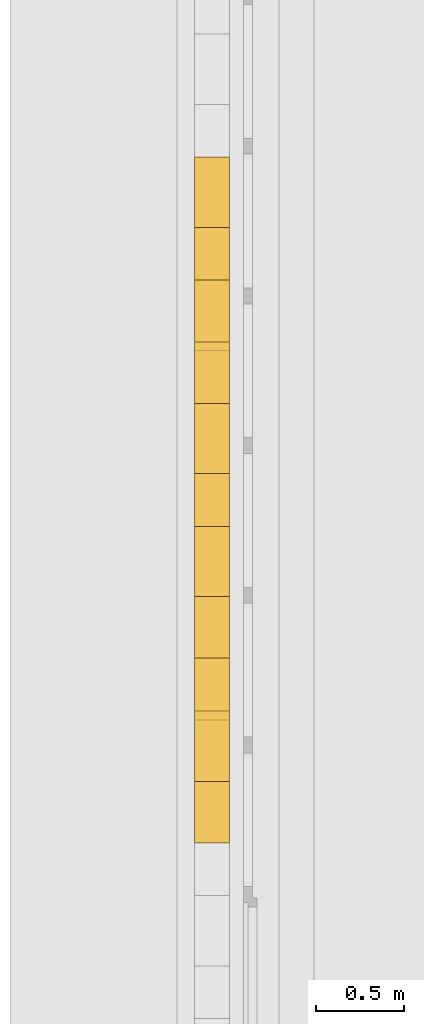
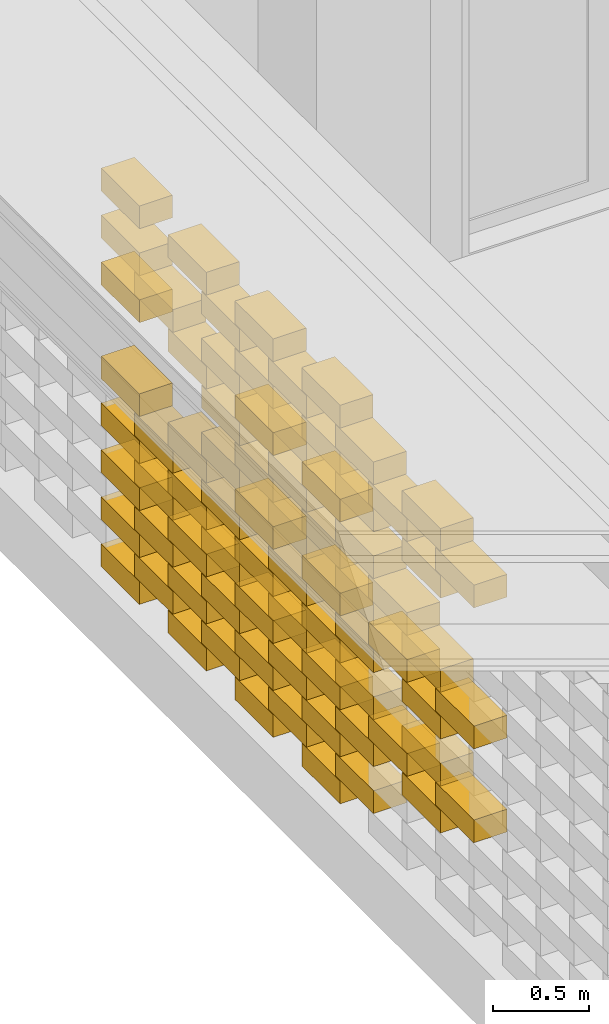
# One storey, part 48 of 62: 89 railings.
"""IFC2X3 building model written with IfcOpenShell, lengths in millimetres."""

from ifc_helpers import new_model, entity, si_unit, converted_unit, derived_unit, money_unit, direction, frame, origin_with_axes, place, context, subcontext, project, spatial, polyline, outline, extrude, material, type_object, element, save


model = new_model("IFC2X3")

# Units and contexts
model_context = context("Model", 3, precision=0.01, world=origin_with_axes(), true_north=direction((0.0, 1.0)))
body_context = subcontext(model_context, "Body", "Model", "MODEL_VIEW")
ifc_project = project(units=[si_unit("LENGTHUNIT", "METRE", prefix="MILLI"), si_unit("AREAUNIT", "SQUARE_METRE"), si_unit("VOLUMEUNIT", "CUBIC_METRE"), converted_unit("PLANEANGLEUNIT", "DEGREE", entity("IfcPlaneAngleMeasure", 0.0174532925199), si_unit("PLANEANGLEUNIT", "RADIAN"), dimensions=[0, 0, 0, 0, 0, 0, 0]), si_unit("SOLIDANGLEUNIT", "STERADIAN"), money_unit("EUR"), converted_unit("TIMEUNIT", "Year", entity("IfcTimeMeasure", 31556926.0), si_unit("TIMEUNIT", "SECOND"), dimensions=[0, 0, 1, 0, 0, 0, 0]), si_unit("MASSUNIT", "GRAM", prefix="KILO"), si_unit("THERMODYNAMICTEMPERATUREUNIT", "DEGREE_CELSIUS"), si_unit("LUMINOUSINTENSITYUNIT", "LUMEN"), si_unit("ENERGYUNIT", "JOULE", prefix="MEGA"), derived_unit("THERMALCONDUCTANCEUNIT", [(si_unit("POWERUNIT", "WATT"), 1), (si_unit("LENGTHUNIT", "METRE"), -1), (si_unit("THERMODYNAMICTEMPERATUREUNIT", "KELVIN"), -1)]), derived_unit("SPECIFICHEATCAPACITYUNIT", [(si_unit("ENERGYUNIT", "JOULE"), 1), (si_unit("MASSUNIT", "GRAM", prefix="KILO"), -1), (si_unit("THERMODYNAMICTEMPERATUREUNIT", "KELVIN"), -1)]), derived_unit("MASSDENSITYUNIT", [(si_unit("MASSUNIT", "GRAM", prefix="KILO"), 1), (si_unit("VOLUMEUNIT", "CUBIC_METRE"), -1)])], contexts=[model_context])

# Site, building, storey
site_placement = place(None, origin_with_axes())
site = spatial("IfcSite", under=ifc_project, at=site_placement, Name="KIRDE 14, ELVA", CompositionType="ELEMENT")
building_placement = place(site_placement, origin_with_axes())
building = spatial("IfcBuilding", under=site, at=building_placement, Name="PPA ja Päästeameti ühishoone", CompositionType="ELEMENT")
storey_placement = place(building_placement, origin_with_axes())
storey = spatial("IfcBuildingStorey", under=building, at=storey_placement, Name="Esimene korrus", CompositionType="ELEMENT", Elevation=0.0)

# Railings
ifc_material = material(Name="Air Space")
railing_type = type_object("IfcRailingType", Name="Air Space 200", PredefinedType="NOTDEFINED")
railing_1_placement = place(storey_placement, frame((620.000148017, 6376.16015987, 2800.0), z_axis=(0.0, 0.0, 1.0), x_axis=(1.30967237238e-09, -1.0, 0.0)))
element("IfcRailing", 1, at=railing_1_placement, inside=storey, type_object=railing_type, material=ifc_material, Name="plokk", PredefinedType="NOTDEFINED", context=body_context, shape_type="SweptSolid", body=[
    extrude(outline(polyline([(0.0, 0.0), (399.999999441, 0.0), (399.999999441, 200.0), (0.0, 200.0), (0.0, 0.0)])), origin_with_axes(), (0.0, 0.0, 1.0), 145.0),
])
railing_2_placement = place(storey_placement, frame((620.000147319, 5676.16016062, 2800.0), z_axis=(0.0, 0.0, 1.0), x_axis=(-2.91038303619e-10, -1.0, 0.0)))
element("IfcRailing", 2, at=railing_2_placement, inside=storey, type_object=railing_type, material=ifc_material, Name="plokk", PredefinedType="NOTDEFINED", context=body_context, shape_type="SweptSolid", body=[
    extrude(outline(polyline([(0.0, 0.0), (400.000001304, 0.0), (400.000001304, 200.0), (0.0, 200.0), (0.0, 0.0)])), origin_with_axes(), (0.0, 0.0, 1.0), 145.0),
])
railing_3_placement = place(storey_placement, frame((620.0001486, 4976.16016043, 2800.0), z_axis=(0.0, 0.0, 1.0), x_axis=(0.0, -1.0, 0.0)))
element("IfcRailing", 3, at=railing_3_placement, inside=storey, type_object=railing_type, material=ifc_material, Name="plokk", PredefinedType="NOTDEFINED", context=body_context, shape_type="SweptSolid", body=[
    extrude(outline(polyline([(0.0, 0.0), (400.000000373, 0.0), (400.000000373, 200.0), (0.0, 200.0), (0.0, 0.0)])), origin_with_axes(), (0.0, 0.0, 1.0), 145.0),
])
railing_4_placement = place(storey_placement, frame((620.000148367, 4276.16016025, 2800.0), z_axis=(0.0, 0.0, 1.0), x_axis=(-1.45519151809e-09, -1.0, 0.0)))
element("IfcRailing", 4, at=railing_4_placement, inside=storey, type_object=railing_type, material=ifc_material, Name="plokk", PredefinedType="NOTDEFINED", context=body_context, shape_type="SweptSolid", body=[
    extrude(outline(polyline([(0.0, 0.0), (400.000001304, 0.0), (400.000001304, 200.0), (0.0, 200.0), (0.0, 0.0)])), origin_with_axes(), (0.0, 0.0, 1.0), 145.0),
])
railing_5_placement = place(storey_placement, frame((620.000148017, 6376.16015987, 400.0), z_axis=(0.0, 0.0, 1.0), x_axis=(1.30967237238e-09, -1.0, 0.0)))
element("IfcRailing", 5, at=railing_5_placement, inside=storey, type_object=railing_type, material=ifc_material, Name="plokk", PredefinedType="NOTDEFINED", context=body_context, shape_type="SweptSolid", body=[
    extrude(outline(polyline([(0.0, 0.0), (399.999999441, 0.0), (399.999999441, 200.0), (0.0, 200.0), (0.0, 0.0)])), origin_with_axes(), (0.0, 0.0, 1.0), 145.0),
])
railing_6_placement = place(storey_placement, frame((620.000147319, 5676.16016062, 400.0), z_axis=(0.0, 0.0, 1.0), x_axis=(-2.91038303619e-10, -1.0, 0.0)))
element("IfcRailing", 6, at=railing_6_placement, inside=storey, type_object=railing_type, material=ifc_material, Name="plokk", PredefinedType="NOTDEFINED", context=body_context, shape_type="SweptSolid", body=[
    extrude(outline(polyline([(0.0, 0.0), (400.000001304, 0.0), (400.000001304, 200.0), (0.0, 200.0), (0.0, 0.0)])), origin_with_axes(), (0.0, 0.0, 1.0), 145.0),
])
railing_7_placement = place(storey_placement, frame((620.0001486, 4976.16016043, 400.0), z_axis=(0.0, 0.0, 1.0), x_axis=(0.0, -1.0, 0.0)))
element("IfcRailing", 7, at=railing_7_placement, inside=storey, type_object=railing_type, material=ifc_material, Name="plokk", PredefinedType="NOTDEFINED", context=body_context, shape_type="SweptSolid", body=[
    extrude(outline(polyline([(0.0, 0.0), (400.000000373, 0.0), (400.000000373, 200.0), (0.0, 200.0), (0.0, 0.0)])), origin_with_axes(), (0.0, 0.0, 1.0), 145.0),
])
railing_8_placement = place(storey_placement, frame((620.000148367, 4276.16016025, 400.0), z_axis=(0.0, 0.0, 1.0), x_axis=(-1.45519151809e-09, -1.0, 0.0)))
element("IfcRailing", 8, at=railing_8_placement, inside=storey, type_object=railing_type, material=ifc_material, Name="plokk", PredefinedType="NOTDEFINED", context=body_context, shape_type="SweptSolid", body=[
    extrude(outline(polyline([(0.0, 0.0), (400.000001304, 0.0), (400.000001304, 200.0), (0.0, 200.0), (0.0, 0.0)])), origin_with_axes(), (0.0, 0.0, 1.0), 145.0),
])
for number, where, z_axis, x_axis in (
    (9, (620.000147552, 6026.16016025, 550.0), (0.0, 0.0, 1.0), (7.27595760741e-10, -1.0, 0.0)),
    (10, (620.000148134, 5326.16016006, 550.0), (0.0, 0.0, 1.0), (-5.82076608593e-10, -1.0, 0.0)),
    (11, (620.000148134, 4626.16015987, 550.0), (0.0, 0.0, 1.0), (8.73114912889e-10, -1.0, 0.0)),
    (12, (620.00014825, 3926.16015969, 550.0), (0.0, 0.0, 1.0), (-5.82076608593e-10, -1.0, 0.0)),
):
    element("IfcRailing", number, at=place(storey_placement, frame(where, z_axis=z_axis, x_axis=x_axis)), inside=storey, type_object=railing_type, material=ifc_material, Name="plokk", PredefinedType="NOTDEFINED", context=body_context, shape_type="SweptSolid", body=[
        extrude(outline(polyline([(0.0, 0.0), (400.000000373, 0.0), (400.000000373, 200.0), (0.0, 200.0), (0.0, 0.0)])), origin_with_axes(), (0.0, 0.0, 1.0), 145.0),
    ])
railing_9_placement = place(storey_placement, frame((620.000148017, 6376.16015987, 700.0), z_axis=(0.0, 0.0, 1.0), x_axis=(1.30967237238e-09, -1.0, 0.0)))
element("IfcRailing", 13, at=railing_9_placement, inside=storey, type_object=railing_type, material=ifc_material, Name="plokk", PredefinedType="NOTDEFINED", context=body_context, shape_type="SweptSolid", body=[
    extrude(outline(polyline([(0.0, 0.0), (399.999999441, 0.0), (399.999999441, 200.0), (0.0, 200.0), (0.0, 0.0)])), origin_with_axes(), (0.0, 0.0, 1.0), 145.0),
])
railing_10_placement = place(storey_placement, frame((620.000147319, 5676.16016062, 700.0), z_axis=(0.0, 0.0, 1.0), x_axis=(-2.91038303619e-10, -1.0, 0.0)))
element("IfcRailing", 14, at=railing_10_placement, inside=storey, type_object=railing_type, material=ifc_material, Name="plokk", PredefinedType="NOTDEFINED", context=body_context, shape_type="SweptSolid", body=[
    extrude(outline(polyline([(0.0, 0.0), (400.000001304, 0.0), (400.000001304, 200.0), (0.0, 200.0), (0.0, 0.0)])), origin_with_axes(), (0.0, 0.0, 1.0), 145.0),
])
railing_11_placement = place(storey_placement, frame((620.0001486, 4976.16016043, 700.0), z_axis=(0.0, 0.0, 1.0), x_axis=(0.0, -1.0, 0.0)))
element("IfcRailing", 15, at=railing_11_placement, inside=storey, type_object=railing_type, material=ifc_material, Name="plokk", PredefinedType="NOTDEFINED", context=body_context, shape_type="SweptSolid", body=[
    extrude(outline(polyline([(0.0, 0.0), (400.000000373, 0.0), (400.000000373, 200.0), (0.0, 200.0), (0.0, 0.0)])), origin_with_axes(), (0.0, 0.0, 1.0), 145.0),
])
railing_12_placement = place(storey_placement, frame((620.000148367, 4276.16016025, 700.0), z_axis=(0.0, 0.0, 1.0), x_axis=(-1.45519151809e-09, -1.0, 0.0)))
element("IfcRailing", 16, at=railing_12_placement, inside=storey, type_object=railing_type, material=ifc_material, Name="plokk", PredefinedType="NOTDEFINED", context=body_context, shape_type="SweptSolid", body=[
    extrude(outline(polyline([(0.0, 0.0), (400.000001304, 0.0), (400.000001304, 200.0), (0.0, 200.0), (0.0, 0.0)])), origin_with_axes(), (0.0, 0.0, 1.0), 145.0),
])
railing_13_placement = place(storey_placement, frame((620.0001486, 4976.16016043, 2200.0), z_axis=(0.0, 0.0, 1.0), x_axis=(0.0, -1.0, 0.0)))
element("IfcRailing", 17, at=railing_13_placement, inside=storey, type_object=railing_type, material=ifc_material, Name="plokk", PredefinedType="NOTDEFINED", context=body_context, shape_type="SweptSolid", body=[
    extrude(outline(polyline([(0.0, 0.0), (400.000000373, 0.0), (400.000000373, 200.0), (0.0, 200.0), (0.0, 0.0)])), origin_with_axes(), (0.0, 0.0, 1.0), 145.0),
])
railing_14_placement = place(storey_placement, frame((620.000148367, 4276.16016025, 1900.0), z_axis=(0.0, 0.0, 1.0), x_axis=(-1.45519151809e-09, -1.0, 0.0)))
element("IfcRailing", 18, at=railing_14_placement, inside=storey, type_object=railing_type, material=ifc_material, Name="plokk", PredefinedType="NOTDEFINED", context=body_context, shape_type="SweptSolid", body=[
    extrude(outline(polyline([(0.0, 0.0), (400.000001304, 0.0), (400.000001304, 200.0), (0.0, 200.0), (0.0, 0.0)])), origin_with_axes(), (0.0, 0.0, 1.0), 145.0),
])
for number, where, z_axis, x_axis in (
    (19, (620.000147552, 6026.16016025, 850.0), (0.0, 0.0, 1.0), (7.27595760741e-10, -1.0, 0.0)),
    (20, (620.000148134, 5326.16016006, 850.0), (0.0, 0.0, 1.0), (-5.82076608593e-10, -1.0, 0.0)),
    (21, (620.000148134, 4626.16015987, 850.0), (0.0, 0.0, 1.0), (8.73114912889e-10, -1.0, 0.0)),
):
    element("IfcRailing", number, at=place(storey_placement, frame(where, z_axis=z_axis, x_axis=x_axis)), inside=storey, type_object=railing_type, material=ifc_material, Name="plokk", PredefinedType="NOTDEFINED", context=body_context, shape_type="SweptSolid", body=[
        extrude(outline(polyline([(0.0, 0.0), (400.000000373, 0.0), (400.000000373, 200.0), (0.0, 200.0), (0.0, 0.0)])), origin_with_axes(), (0.0, 0.0, 1.0), 145.0),
    ])
railing_15_placement = place(storey_placement, frame((620.000148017, 6376.16015987, 1000.0), z_axis=(0.0, 0.0, 1.0), x_axis=(1.30967237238e-09, -1.0, 0.0)))
element("IfcRailing", 22, at=railing_15_placement, inside=storey, type_object=railing_type, material=ifc_material, Name="plokk", PredefinedType="NOTDEFINED", context=body_context, shape_type="SweptSolid", body=[
    extrude(outline(polyline([(0.0, 0.0), (399.999999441, 0.0), (399.999999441, 200.0), (0.0, 200.0), (0.0, 0.0)])), origin_with_axes(), (0.0, 0.0, 1.0), 145.0),
])
railing_16_placement = place(storey_placement, frame((620.000147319, 5676.16016062, 1000.0), z_axis=(0.0, 0.0, 1.0), x_axis=(-2.91038303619e-10, -1.0, 0.0)))
element("IfcRailing", 23, at=railing_16_placement, inside=storey, type_object=railing_type, material=ifc_material, Name="plokk", PredefinedType="NOTDEFINED", context=body_context, shape_type="SweptSolid", body=[
    extrude(outline(polyline([(0.0, 0.0), (400.000001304, 0.0), (400.000001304, 200.0), (0.0, 200.0), (0.0, 0.0)])), origin_with_axes(), (0.0, 0.0, 1.0), 145.0),
])
railing_17_placement = place(storey_placement, frame((620.0001486, 4976.16016043, 1000.0), z_axis=(0.0, 0.0, 1.0), x_axis=(0.0, -1.0, 0.0)))
element("IfcRailing", 24, at=railing_17_placement, inside=storey, type_object=railing_type, material=ifc_material, Name="plokk", PredefinedType="NOTDEFINED", context=body_context, shape_type="SweptSolid", body=[
    extrude(outline(polyline([(0.0, 0.0), (400.000000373, 0.0), (400.000000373, 200.0), (0.0, 200.0), (0.0, 0.0)])), origin_with_axes(), (0.0, 0.0, 1.0), 145.0),
])
railing_18_placement = place(storey_placement, frame((620.000148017, 6376.16015987, 1000.0), z_axis=(0.0, 0.0, 1.0), x_axis=(1.30967237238e-09, -1.0, 0.0)))
element("IfcRailing", 25, at=railing_18_placement, inside=storey, type_object=railing_type, material=ifc_material, Name="plokk", PredefinedType="NOTDEFINED", context=body_context, shape_type="SweptSolid", body=[
    extrude(outline(polyline([(0.0, 0.0), (399.999999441, 0.0), (399.999999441, 200.0), (0.0, 200.0), (0.0, 0.0)])), origin_with_axes(), (0.0, 0.0, 1.0), 145.0),
])
railing_19_placement = place(storey_placement, frame((620.000147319, 5676.16016062, 1000.0), z_axis=(0.0, 0.0, 1.0), x_axis=(-2.91038303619e-10, -1.0, 0.0)))
element("IfcRailing", 26, at=railing_19_placement, inside=storey, type_object=railing_type, material=ifc_material, Name="plokk", PredefinedType="NOTDEFINED", context=body_context, shape_type="SweptSolid", body=[
    extrude(outline(polyline([(0.0, 0.0), (400.000001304, 0.0), (400.000001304, 200.0), (0.0, 200.0), (0.0, 0.0)])), origin_with_axes(), (0.0, 0.0, 1.0), 145.0),
])
for number, where, z_axis, x_axis in (
    (27, (620.0001486, 4976.16016043, 1000.0), (0.0, 0.0, 1.0), (0.0, -1.0, 0.0)),
    (28, (620.000147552, 6026.16016025, 1150.0), (0.0, 0.0, 1.0), (7.27595760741e-10, -1.0, 0.0)),
    (29, (620.000148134, 5326.16016006, 1150.0), (0.0, 0.0, 1.0), (-5.82076608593e-10, -1.0, 0.0)),
):
    element("IfcRailing", number, at=place(storey_placement, frame(where, z_axis=z_axis, x_axis=x_axis)), inside=storey, type_object=railing_type, material=ifc_material, Name="plokk", PredefinedType="NOTDEFINED", context=body_context, shape_type="SweptSolid", body=[
        extrude(outline(polyline([(0.0, 0.0), (400.000000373, 0.0), (400.000000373, 200.0), (0.0, 200.0), (0.0, 0.0)])), origin_with_axes(), (0.0, 0.0, 1.0), 145.0),
    ])
railing_20_placement = place(storey_placement, frame((620.000148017, 6376.16015987, 1300.0), z_axis=(0.0, 0.0, 1.0), x_axis=(1.30967237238e-09, -1.0, 0.0)))
element("IfcRailing", 30, at=railing_20_placement, inside=storey, type_object=railing_type, material=ifc_material, Name="plokk", PredefinedType="NOTDEFINED", context=body_context, shape_type="SweptSolid", body=[
    extrude(outline(polyline([(0.0, 0.0), (399.999999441, 0.0), (399.999999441, 200.0), (0.0, 200.0), (0.0, 0.0)])), origin_with_axes(), (0.0, 0.0, 1.0), 145.0),
])
railing_21_placement = place(storey_placement, frame((620.000147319, 5676.16016062, 1300.0), z_axis=(0.0, 0.0, 1.0), x_axis=(-2.91038303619e-10, -1.0, 0.0)))
element("IfcRailing", 31, at=railing_21_placement, inside=storey, type_object=railing_type, material=ifc_material, Name="plokk", PredefinedType="NOTDEFINED", context=body_context, shape_type="SweptSolid", body=[
    extrude(outline(polyline([(0.0, 0.0), (400.000001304, 0.0), (400.000001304, 200.0), (0.0, 200.0), (0.0, 0.0)])), origin_with_axes(), (0.0, 0.0, 1.0), 145.0),
])
railing_22_placement = place(storey_placement, frame((620.000147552, 6026.16016025, 1450.0), z_axis=(0.0, 0.0, 1.0), x_axis=(7.27595760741e-10, -1.0, 0.0)))
element("IfcRailing", 32, at=railing_22_placement, inside=storey, type_object=railing_type, material=ifc_material, Name="plokk", PredefinedType="NOTDEFINED", context=body_context, shape_type="SweptSolid", body=[
    extrude(outline(polyline([(0.0, 0.0), (400.000000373, 0.0), (400.000000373, 200.0), (0.0, 200.0), (0.0, 0.0)])), origin_with_axes(), (0.0, 0.0, 1.0), 145.0),
])
for number, where, z_axis, x_axis in (
    (33, (620.000148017, 6376.16015987, 2200.0), (0.0, 0.0, 1.0), (1.30967237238e-09, -1.0, 0.0)),
    (34, (620.000148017, 6376.16015987, 1600.0), (0.0, 0.0, 1.0), (1.30967237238e-09, -1.0, 0.0)),
):
    element("IfcRailing", number, at=place(storey_placement, frame(where, z_axis=z_axis, x_axis=x_axis)), inside=storey, type_object=railing_type, material=ifc_material, Name="plokk", PredefinedType="NOTDEFINED", context=body_context, shape_type="SweptSolid", body=[
        extrude(outline(polyline([(0.0, 0.0), (399.999999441, 0.0), (399.999999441, 200.0), (0.0, 200.0), (0.0, 0.0)])), origin_with_axes(), (0.0, 0.0, 1.0), 145.0),
    ])
railing_23_placement = place(storey_placement, frame((620.000147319, 5676.16016062, 1600.0), z_axis=(0.0, 0.0, 1.0), x_axis=(-2.91038303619e-10, -1.0, 0.0)))
element("IfcRailing", 35, at=railing_23_placement, inside=storey, type_object=railing_type, material=ifc_material, Name="plokk", PredefinedType="NOTDEFINED", context=body_context, shape_type="SweptSolid", body=[
    extrude(outline(polyline([(0.0, 0.0), (400.000001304, 0.0), (400.000001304, 200.0), (0.0, 200.0), (0.0, 0.0)])), origin_with_axes(), (0.0, 0.0, 1.0), 145.0),
])
railing_24_placement = place(storey_placement, frame((620.000148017, 6376.16015987, 1600.0), z_axis=(0.0, 0.0, 1.0), x_axis=(1.30967237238e-09, -1.0, 0.0)))
element("IfcRailing", 36, at=railing_24_placement, inside=storey, type_object=railing_type, material=ifc_material, Name="plokk", PredefinedType="NOTDEFINED", context=body_context, shape_type="SweptSolid", body=[
    extrude(outline(polyline([(0.0, 0.0), (399.999999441, 0.0), (399.999999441, 200.0), (0.0, 200.0), (0.0, 0.0)])), origin_with_axes(), (0.0, 0.0, 1.0), 145.0),
])
railing_25_placement = place(storey_placement, frame((620.000148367, 4276.16016025, 1600.0), z_axis=(0.0, 0.0, 1.0), x_axis=(-1.45519151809e-09, -1.0, 0.0)))
element("IfcRailing", 37, at=railing_25_placement, inside=storey, type_object=railing_type, material=ifc_material, Name="plokk", PredefinedType="NOTDEFINED", context=body_context, shape_type="SweptSolid", body=[
    extrude(outline(polyline([(0.0, 0.0), (400.000001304, 0.0), (400.000001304, 200.0), (0.0, 200.0), (0.0, 0.0)])), origin_with_axes(), (0.0, 0.0, 1.0), 145.0),
])
railing_26_placement = place(storey_placement, frame((620.00014825, 3926.16015969, 850.0), z_axis=(0.0, 0.0, 1.0), x_axis=(-5.82076608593e-10, -1.0, 0.0)))
element("IfcRailing", 38, at=railing_26_placement, inside=storey, type_object=railing_type, material=ifc_material, Name="plokk", PredefinedType="NOTDEFINED", context=body_context, shape_type="SweptSolid", body=[
    extrude(outline(polyline([(0.0, 0.0), (400.000000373, 0.0), (400.000000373, 200.0), (0.0, 200.0), (0.0, 0.0)])), origin_with_axes(), (0.0, 0.0, 1.0), 145.0),
])
railing_27_placement = place(storey_placement, frame((620.000147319, 5676.16016062, 2200.0), z_axis=(0.0, 0.0, 1.0), x_axis=(-2.91038303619e-10, -1.0, 0.0)))
element("IfcRailing", 39, at=railing_27_placement, inside=storey, type_object=railing_type, material=ifc_material, Name="plokk", PredefinedType="NOTDEFINED", context=body_context, shape_type="SweptSolid", body=[
    extrude(outline(polyline([(0.0, 0.0), (400.000001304, 0.0), (400.000001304, 200.0), (0.0, 200.0), (0.0, 0.0)])), origin_with_axes(), (0.0, 0.0, 1.0), 145.0),
])
railing_28_placement = place(storey_placement, frame((620.000148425, 3576.16016099, 1600.0), z_axis=(0.0, 0.0, 1.0), x_axis=(7.27595760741e-10, -1.0, 0.0)))
element("IfcRailing", 40, at=railing_28_placement, inside=storey, type_object=railing_type, material=ifc_material, Name="plokk", PredefinedType="NOTDEFINED", context=body_context, shape_type="SweptSolid", body=[
    extrude(outline(polyline([(0.0, 0.0), (400.000000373, 0.0), (400.000000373, 200.0), (0.0, 200.0), (0.0, 0.0)])), origin_with_axes(), (0.0, 0.0, 1.0), 145.0),
])
railing_29_placement = place(storey_placement, frame((620.000148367, 4276.16016025, 1300.0), z_axis=(0.0, 0.0, 1.0), x_axis=(-1.45519151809e-09, -1.0, 0.0)))
element("IfcRailing", 41, at=railing_29_placement, inside=storey, type_object=railing_type, material=ifc_material, Name="plokk", PredefinedType="NOTDEFINED", context=body_context, shape_type="SweptSolid", body=[
    extrude(outline(polyline([(0.0, 0.0), (400.000001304, 0.0), (400.000001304, 200.0), (0.0, 200.0), (0.0, 0.0)])), origin_with_axes(), (0.0, 0.0, 1.0), 145.0),
])
for number, where, z_axis, x_axis in (
    (42, (620.000148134, 5326.16016006, 1450.0), (0.0, 0.0, 1.0), (-5.82076608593e-10, -1.0, 0.0)),
    (43, (620.000148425, 3576.16016099, 1000.0), (0.0, 0.0, 1.0), (7.27595760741e-10, -1.0, 0.0)),
):
    element("IfcRailing", number, at=place(storey_placement, frame(where, z_axis=z_axis, x_axis=x_axis)), inside=storey, type_object=railing_type, material=ifc_material, Name="plokk", PredefinedType="NOTDEFINED", context=body_context, shape_type="SweptSolid", body=[
        extrude(outline(polyline([(0.0, 0.0), (400.000000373, 0.0), (400.000000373, 200.0), (0.0, 200.0), (0.0, 0.0)])), origin_with_axes(), (0.0, 0.0, 1.0), 145.0),
    ])
railing_30_placement = place(storey_placement, frame((620.000148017, 2876.16015987, 1000.0), z_axis=(0.0, 0.0, 1.0), x_axis=(5.82076609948e-10, -1.0, 0.0)))
element("IfcRailing", 44, at=railing_30_placement, inside=storey, type_object=railing_type, material=ifc_material, Name="plokk", PredefinedType="NOTDEFINED", context=body_context, shape_type="SweptSolid", body=[
    extrude(outline(polyline([(0.0, 0.0), (399.999999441, 0.0), (399.999999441, 200.0), (0.0, 200.0), (0.0, 0.0)])), origin_with_axes(), (0.0, 0.0, 1.0), 145.0),
])
for number, where, z_axis, x_axis in (
    (45, (620.000148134, 4626.16015987, 1150.0), (0.0, 0.0, 1.0), (8.73114912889e-10, -1.0, 0.0)),
    (46, (620.0001486, 4976.16016043, 1300.0), (0.0, 0.0, 1.0), (0.0, -1.0, 0.0)),
    (47, (620.00014825, 3926.16015969, 1750.0), (0.0, 0.0, 1.0), (-5.82076608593e-10, -1.0, 0.0)),
):
    element("IfcRailing", number, at=place(storey_placement, frame(where, z_axis=z_axis, x_axis=x_axis)), inside=storey, type_object=railing_type, material=ifc_material, Name="plokk", PredefinedType="NOTDEFINED", context=body_context, shape_type="SweptSolid", body=[
        extrude(outline(polyline([(0.0, 0.0), (400.000000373, 0.0), (400.000000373, 200.0), (0.0, 200.0), (0.0, 0.0)])), origin_with_axes(), (0.0, 0.0, 1.0), 145.0),
    ])
railing_31_placement = place(storey_placement, frame((620.000148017, 6376.16015987, 2200.0), z_axis=(0.0, 0.0, 1.0), x_axis=(1.30967237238e-09, -1.0, 0.0)))
element("IfcRailing", 48, at=railing_31_placement, inside=storey, type_object=railing_type, material=ifc_material, Name="plokk", PredefinedType="NOTDEFINED", context=body_context, shape_type="SweptSolid", body=[
    extrude(outline(polyline([(0.0, 0.0), (399.999999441, 0.0), (399.999999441, 200.0), (0.0, 200.0), (0.0, 0.0)])), origin_with_axes(), (0.0, 0.0, 1.0), 145.0),
])
railing_32_placement = place(storey_placement, frame((620.00014825, 3226.16016043, 1150.0), z_axis=(0.0, 0.0, 1.0), x_axis=(-5.82076608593e-10, -1.0, 0.0)))
element("IfcRailing", 49, at=railing_32_placement, inside=storey, type_object=railing_type, material=ifc_material, Name="plokk", PredefinedType="NOTDEFINED", context=body_context, shape_type="SweptSolid", body=[
    extrude(outline(polyline([(0.0, 0.0), (400.000000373, 0.0), (400.000000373, 200.0), (0.0, 200.0), (0.0, 0.0)])), origin_with_axes(), (0.0, 0.0, 1.0), 145.0),
])
railing_33_placement = place(storey_placement, frame((620.000148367, 4276.16016025, 1000.0), z_axis=(0.0, 0.0, 1.0), x_axis=(-1.45519151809e-09, -1.0, 0.0)))
element("IfcRailing", 50, at=railing_33_placement, inside=storey, type_object=railing_type, material=ifc_material, Name="plokk", PredefinedType="NOTDEFINED", context=body_context, shape_type="SweptSolid", body=[
    extrude(outline(polyline([(0.0, 0.0), (400.000001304, 0.0), (400.000001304, 200.0), (0.0, 200.0), (0.0, 0.0)])), origin_with_axes(), (0.0, 0.0, 1.0), 145.0),
])
for number, where, z_axis, x_axis in (
    (51, (620.000147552, 6026.16016025, 2350.0), (0.0, 0.0, 1.0), (7.27595760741e-10, -1.0, 0.0)),
    (52, (620.000148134, 5326.16016006, 2350.0), (0.0, 0.0, 1.0), (-5.82076608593e-10, -1.0, 0.0)),
    (53, (620.000148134, 4626.16015987, 2350.0), (0.0, 0.0, 1.0), (8.73114912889e-10, -1.0, 0.0)),
    (54, (620.00014825, 3926.16015969, 2350.0), (0.0, 0.0, 1.0), (-5.82076608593e-10, -1.0, 0.0)),
    (55, (620.00014825, 3226.16016043, 2350.0), (0.0, 0.0, 1.0), (-5.82076608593e-10, -1.0, 0.0)),
):
    element("IfcRailing", number, at=place(storey_placement, frame(where, z_axis=z_axis, x_axis=x_axis)), inside=storey, type_object=railing_type, material=ifc_material, Name="plokk", PredefinedType="NOTDEFINED", context=body_context, shape_type="SweptSolid", body=[
        extrude(outline(polyline([(0.0, 0.0), (400.000000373, 0.0), (400.000000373, 200.0), (0.0, 200.0), (0.0, 0.0)])), origin_with_axes(), (0.0, 0.0, 1.0), 145.0),
    ])
railing_34_placement = place(storey_placement, frame((620.000148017, 6376.16015987, 2500.0), z_axis=(0.0, 0.0, 1.0), x_axis=(1.30967237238e-09, -1.0, 0.0)))
element("IfcRailing", 56, at=railing_34_placement, inside=storey, type_object=railing_type, material=ifc_material, Name="plokk", PredefinedType="NOTDEFINED", context=body_context, shape_type="SweptSolid", body=[
    extrude(outline(polyline([(0.0, 0.0), (399.999999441, 0.0), (399.999999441, 200.0), (0.0, 200.0), (0.0, 0.0)])), origin_with_axes(), (0.0, 0.0, 1.0), 145.0),
])
railing_35_placement = place(storey_placement, frame((620.0001486, 4976.16016043, 2500.0), z_axis=(0.0, 0.0, 1.0), x_axis=(0.0, -1.0, 0.0)))
element("IfcRailing", 57, at=railing_35_placement, inside=storey, type_object=railing_type, material=ifc_material, Name="plokk", PredefinedType="NOTDEFINED", context=body_context, shape_type="SweptSolid", body=[
    extrude(outline(polyline([(0.0, 0.0), (400.000000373, 0.0), (400.000000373, 200.0), (0.0, 200.0), (0.0, 0.0)])), origin_with_axes(), (0.0, 0.0, 1.0), 145.0),
])
railing_36_placement = place(storey_placement, frame((620.000148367, 4276.16016025, 2500.0), z_axis=(0.0, 0.0, 1.0), x_axis=(-1.45519151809e-09, -1.0, 0.0)))
element("IfcRailing", 58, at=railing_36_placement, inside=storey, type_object=railing_type, material=ifc_material, Name="plokk", PredefinedType="NOTDEFINED", context=body_context, shape_type="SweptSolid", body=[
    extrude(outline(polyline([(0.0, 0.0), (400.000001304, 0.0), (400.000001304, 200.0), (0.0, 200.0), (0.0, 0.0)])), origin_with_axes(), (0.0, 0.0, 1.0), 145.0),
])
railing_37_placement = place(storey_placement, frame((620.000148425, 3576.16016099, 2500.0), z_axis=(0.0, 0.0, 1.0), x_axis=(7.27595760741e-10, -1.0, 0.0)))
element("IfcRailing", 59, at=railing_37_placement, inside=storey, type_object=railing_type, material=ifc_material, Name="plokk", PredefinedType="NOTDEFINED", context=body_context, shape_type="SweptSolid", body=[
    extrude(outline(polyline([(0.0, 0.0), (400.000000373, 0.0), (400.000000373, 200.0), (0.0, 200.0), (0.0, 0.0)])), origin_with_axes(), (0.0, 0.0, 1.0), 145.0),
])
railing_38_placement = place(storey_placement, frame((620.000148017, 2876.16015987, 2500.0), z_axis=(0.0, 0.0, 1.0), x_axis=(5.82076609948e-10, -1.0, 0.0)))
element("IfcRailing", 60, at=railing_38_placement, inside=storey, type_object=railing_type, material=ifc_material, Name="plokk", PredefinedType="NOTDEFINED", context=body_context, shape_type="SweptSolid", body=[
    extrude(outline(polyline([(0.0, 0.0), (399.999999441, 0.0), (399.999999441, 200.0), (0.0, 200.0), (0.0, 0.0)])), origin_with_axes(), (0.0, 0.0, 1.0), 145.0),
])
for number, where, z_axis, x_axis in (
    (61, (620.000148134, 5326.16016006, 2650.0), (0.0, 0.0, 1.0), (-5.82076608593e-10, -1.0, 0.0)),
    (62, (620.000148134, 4626.16015987, 2650.0), (0.0, 0.0, 1.0), (8.73114912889e-10, -1.0, 0.0)),
    (63, (620.00014825, 3926.16015969, 2650.0), (0.0, 0.0, 1.0), (-5.82076608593e-10, -1.0, 0.0)),
    (64, (620.00014825, 3226.16016043, 2650.0), (0.0, 0.0, 1.0), (-5.82076608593e-10, -1.0, 0.0)),
):
    element("IfcRailing", number, at=place(storey_placement, frame(where, z_axis=z_axis, x_axis=x_axis)), inside=storey, type_object=railing_type, material=ifc_material, Name="plokk", PredefinedType="NOTDEFINED", context=body_context, shape_type="SweptSolid", body=[
        extrude(outline(polyline([(0.0, 0.0), (400.000000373, 0.0), (400.000000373, 200.0), (0.0, 200.0), (0.0, 0.0)])), origin_with_axes(), (0.0, 0.0, 1.0), 145.0),
    ])
railing_39_placement = place(storey_placement, frame((620.000148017, 2876.16015987, 1600.0), z_axis=(0.0, 0.0, 1.0), x_axis=(5.82076609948e-10, -1.0, 0.0)))
element("IfcRailing", 65, at=railing_39_placement, inside=storey, type_object=railing_type, material=ifc_material, Name="plokk", PredefinedType="NOTDEFINED", context=body_context, shape_type="SweptSolid", body=[
    extrude(outline(polyline([(0.0, 0.0), (399.999999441, 0.0), (399.999999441, 200.0), (0.0, 200.0), (0.0, 0.0)])), origin_with_axes(), (0.0, 0.0, 1.0), 145.0),
])
for number, where, z_axis, x_axis in (
    (66, (620.0001486, 4976.16016043, 1600.0), (0.0, 0.0, 1.0), (0.0, -1.0, 0.0)),
    (67, (620.000148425, 3576.16016099, 1900.0), (0.0, 0.0, 1.0), (7.27595760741e-10, -1.0, 0.0)),
    (68, (620.00014825, 3926.16015969, 2050.0), (0.0, 0.0, 1.0), (-5.82076608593e-10, -1.0, 0.0)),
):
    element("IfcRailing", number, at=place(storey_placement, frame(where, z_axis=z_axis, x_axis=x_axis)), inside=storey, type_object=railing_type, material=ifc_material, Name="plokk", PredefinedType="NOTDEFINED", context=body_context, shape_type="SweptSolid", body=[
        extrude(outline(polyline([(0.0, 0.0), (400.000000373, 0.0), (400.000000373, 200.0), (0.0, 200.0), (0.0, 0.0)])), origin_with_axes(), (0.0, 0.0, 1.0), 145.0),
    ])
railing_40_placement = place(storey_placement, frame((620.000148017, 2876.16015987, 1600.0), z_axis=(0.0, 0.0, 1.0), x_axis=(5.82076609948e-10, -1.0, 0.0)))
element("IfcRailing", 69, at=railing_40_placement, inside=storey, type_object=railing_type, material=ifc_material, Name="plokk", PredefinedType="NOTDEFINED", context=body_context, shape_type="SweptSolid", body=[
    extrude(outline(polyline([(0.0, 0.0), (399.999999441, 0.0), (399.999999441, 200.0), (0.0, 200.0), (0.0, 0.0)])), origin_with_axes(), (0.0, 0.0, 1.0), 145.0),
])
for number, where, z_axis, x_axis in (
    (70, (620.00014825, 3226.16016043, 1750.0), (0.0, 0.0, 1.0), (-5.82076608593e-10, -1.0, 0.0)),
    (71, (620.000148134, 5326.16016006, 1750.0), (0.0, 0.0, 1.0), (-5.82076608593e-10, -1.0, 0.0)),
    (72, (620.0001486, 4976.16016043, 1900.0), (0.0, 0.0, 1.0), (0.0, -1.0, 0.0)),
    (73, (620.0001486, 4976.16016043, 1600.0), (0.0, 0.0, 1.0), (0.0, -1.0, 0.0)),
    (74, (620.000148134, 4626.16015987, 1450.0), (0.0, 0.0, 1.0), (8.73114912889e-10, -1.0, 0.0)),
):
    element("IfcRailing", number, at=place(storey_placement, frame(where, z_axis=z_axis, x_axis=x_axis)), inside=storey, type_object=railing_type, material=ifc_material, Name="plokk", PredefinedType="NOTDEFINED", context=body_context, shape_type="SweptSolid", body=[
        extrude(outline(polyline([(0.0, 0.0), (400.000000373, 0.0), (400.000000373, 200.0), (0.0, 200.0), (0.0, 0.0)])), origin_with_axes(), (0.0, 0.0, 1.0), 145.0),
    ])
railing_41_placement = place(storey_placement, frame((620.000148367, 4276.16016025, 1600.0), z_axis=(0.0, 0.0, 1.0), x_axis=(-1.45519151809e-09, -1.0, 0.0)))
element("IfcRailing", 75, at=railing_41_placement, inside=storey, type_object=railing_type, material=ifc_material, Name="plokk", PredefinedType="NOTDEFINED", context=body_context, shape_type="SweptSolid", body=[
    extrude(outline(polyline([(0.0, 0.0), (400.000001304, 0.0), (400.000001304, 200.0), (0.0, 200.0), (0.0, 0.0)])), origin_with_axes(), (0.0, 0.0, 1.0), 145.0),
])
railing_42_placement = place(storey_placement, frame((620.000148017, 2876.16015987, 1000.0), z_axis=(0.0, 0.0, 1.0), x_axis=(5.82076609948e-10, -1.0, 0.0)))
element("IfcRailing", 76, at=railing_42_placement, inside=storey, type_object=railing_type, material=ifc_material, Name="plokk", PredefinedType="NOTDEFINED", context=body_context, shape_type="SweptSolid", body=[
    extrude(outline(polyline([(0.0, 0.0), (399.999999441, 0.0), (399.999999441, 200.0), (0.0, 200.0), (0.0, 0.0)])), origin_with_axes(), (0.0, 0.0, 1.0), 145.0),
])
railing_43_placement = place(storey_placement, frame((620.000148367, 4276.16016025, 1000.0), z_axis=(0.0, 0.0, 1.0), x_axis=(-1.45519151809e-09, -1.0, 0.0)))
element("IfcRailing", 77, at=railing_43_placement, inside=storey, type_object=railing_type, material=ifc_material, Name="plokk", PredefinedType="NOTDEFINED", context=body_context, shape_type="SweptSolid", body=[
    extrude(outline(polyline([(0.0, 0.0), (400.000001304, 0.0), (400.000001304, 200.0), (0.0, 200.0), (0.0, 0.0)])), origin_with_axes(), (0.0, 0.0, 1.0), 145.0),
])
for number, where, z_axis, x_axis in (
    (78, (620.000148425, 3576.16016099, 1000.0), (0.0, 0.0, 1.0), (7.27595760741e-10, -1.0, 0.0)),
    (79, (620.00014825, 3926.16015969, 1150.0), (0.0, 0.0, 1.0), (-5.82076608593e-10, -1.0, 0.0)),
    (80, (620.00014825, 3926.16015969, 1450.0), (0.0, 0.0, 1.0), (-5.82076608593e-10, -1.0, 0.0)),
    (81, (620.00014825, 3226.16016043, 1450.0), (0.0, 0.0, 1.0), (-5.82076608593e-10, -1.0, 0.0)),
    (82, (620.000148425, 3576.16016099, 1600.0), (0.0, 0.0, 1.0), (7.27595760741e-10, -1.0, 0.0)),
    (83, (620.00014825, 3226.16016043, 850.0), (0.0, 0.0, 1.0), (-5.82076608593e-10, -1.0, 0.0)),
    (84, (620.000148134, 5326.16016006, 2050.0), (0.0, 0.0, 1.0), (-5.82076608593e-10, -1.0, 0.0)),
    (85, (620.000148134, 4626.16015987, 2050.0), (0.0, 0.0, 1.0), (8.73114912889e-10, -1.0, 0.0)),
    (86, (620.0001486, 4976.16016043, 2200.0), (0.0, 0.0, 1.0), (0.0, -1.0, 0.0)),
):
    element("IfcRailing", number, at=place(storey_placement, frame(where, z_axis=z_axis, x_axis=x_axis)), inside=storey, type_object=railing_type, material=ifc_material, Name="plokk", PredefinedType="NOTDEFINED", context=body_context, shape_type="SweptSolid", body=[
        extrude(outline(polyline([(0.0, 0.0), (400.000000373, 0.0), (400.000000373, 200.0), (0.0, 200.0), (0.0, 0.0)])), origin_with_axes(), (0.0, 0.0, 1.0), 145.0),
    ])
for number, where, z_axis, x_axis in (
    (87, (620.000148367, 4276.16016025, 2200.0), (0.0, 0.0, 1.0), (-1.45519151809e-09, -1.0, 0.0)),
    (88, (620.000148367, 4276.16016025, 2200.0), (0.0, 0.0, 1.0), (-1.45519151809e-09, -1.0, 0.0)),
):
    element("IfcRailing", number, at=place(storey_placement, frame(where, z_axis=z_axis, x_axis=x_axis)), inside=storey, type_object=railing_type, material=ifc_material, Name="plokk", PredefinedType="NOTDEFINED", context=body_context, shape_type="SweptSolid", body=[
        extrude(outline(polyline([(0.0, 0.0), (400.000001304, 0.0), (400.000001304, 200.0), (0.0, 200.0), (0.0, 0.0)])), origin_with_axes(), (0.0, 0.0, 1.0), 145.0),
    ])
railing_44_placement = place(storey_placement, frame((620.000148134, 4626.16015987, 1750.0), z_axis=(0.0, 0.0, 1.0), x_axis=(8.73114912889e-10, -1.0, 0.0)))
element("IfcRailing", 89, at=railing_44_placement, inside=storey, type_object=railing_type, material=ifc_material, Name="plokk", PredefinedType="NOTDEFINED", context=body_context, shape_type="SweptSolid", body=[
    extrude(outline(polyline([(0.0, 0.0), (400.000000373, 0.0), (400.000000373, 200.0), (0.0, 200.0), (0.0, 0.0)])), origin_with_axes(), (0.0, 0.0, 1.0), 145.0),
])

save(model, "model.ifc")
